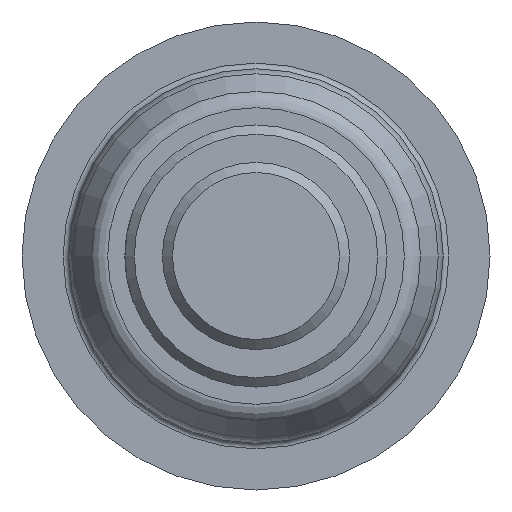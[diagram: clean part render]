
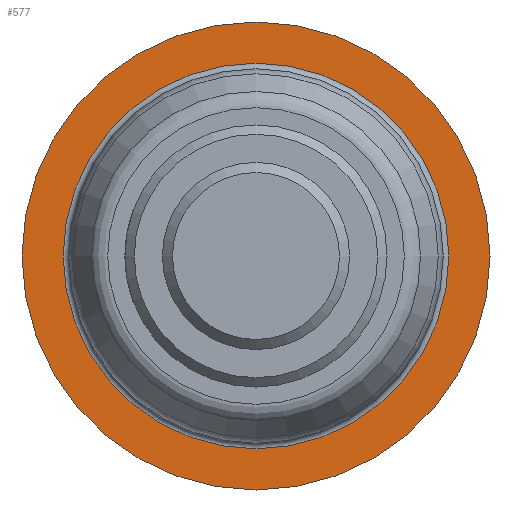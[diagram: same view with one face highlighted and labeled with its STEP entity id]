
A CAD part, left-side view. The second image highlights one B-rep face of the part: STEP entity #577.
In plain terms, the highlighted planar face has unit normal (-1, 0, 0).
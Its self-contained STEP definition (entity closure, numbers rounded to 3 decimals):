
#25=FACE_BOUND('',#122,.T.);
#45=PLANE('',#657);
#81=FACE_OUTER_BOUND('',#121,.T.);
#121=EDGE_LOOP('',(#483));
#122=EDGE_LOOP('',(#484));
#216=CIRCLE('',#652,10.3);
#220=CIRCLE('',#658,12.5);
#279=VERTEX_POINT('',#1065);
#282=VERTEX_POINT('',#1076);
#349=EDGE_CURVE('',#279,#279,#216,.T.);
#354=EDGE_CURVE('',#282,#282,#220,.T.);
#483=ORIENTED_EDGE('',*,*,#354,.F.);
#484=ORIENTED_EDGE('',*,*,#349,.F.);
#577=ADVANCED_FACE('',(#81,#25),#45,.T.);
#652=AXIS2_PLACEMENT_3D('',#1067,#794,#795);
#657=AXIS2_PLACEMENT_3D('',#1075,#805,#806);
#658=AXIS2_PLACEMENT_3D('',#1077,#807,#808);
#794=DIRECTION('center_axis',(-1.,0.,0.));
#795=DIRECTION('ref_axis',(0.,-1.,0.));
#805=DIRECTION('center_axis',(-1.,0.,0.));
#806=DIRECTION('ref_axis',(0.,0.,1.));
#807=DIRECTION('center_axis',(1.,0.,0.));
#808=DIRECTION('ref_axis',(0.,1.,0.));
#1065=CARTESIAN_POINT('',(63.,0.,10.3));
#1067=CARTESIAN_POINT('Origin',(63.,0.,0.));
#1075=CARTESIAN_POINT('Origin',(63.,11.25,0.));
#1076=CARTESIAN_POINT('',(63.,-12.5,0.));
#1077=CARTESIAN_POINT('Origin',(63.,0.,0.));
